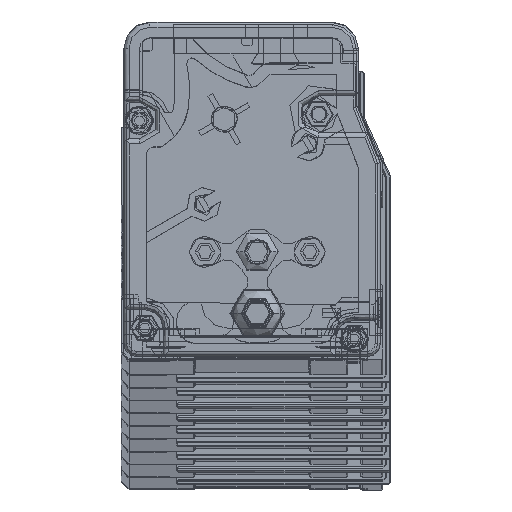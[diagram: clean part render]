
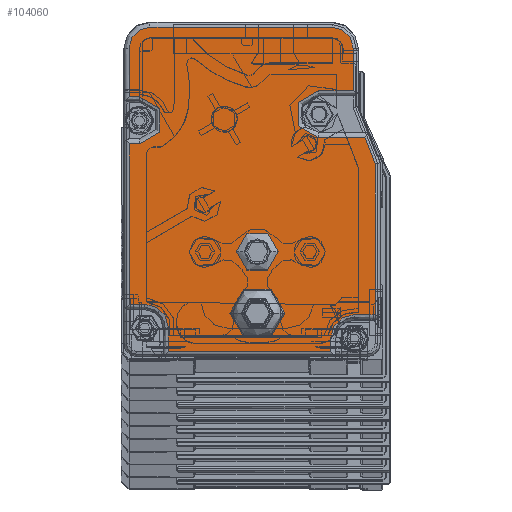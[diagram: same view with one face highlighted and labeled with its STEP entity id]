
A CAD part, top view. The second image highlights one B-rep face of the part: STEP entity #104060.
In plain terms, the highlighted planar face has unit normal (0, 0, 1).
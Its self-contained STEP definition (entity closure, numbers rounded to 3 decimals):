
#101950=CARTESIAN_POINT('',(-20.265,1.758,
3972.39));
#101960=DIRECTION('',(0.,0.,-1.));
#101970=DIRECTION('',(-1.,0.,0.));
#101980=AXIS2_PLACEMENT_3D('',#101950,#101960,#101970);
#101990=PLANE('',#101980);
#102000=CARTESIAN_POINT('',(-44.056,10.421,
3972.39));
#102010=DIRECTION('',(0.,0.,-1.));
#102020=DIRECTION('',(-1.,0.,0.));
#102030=AXIS2_PLACEMENT_3D('',#102000,#102010,#102020);
#102040=CIRCLE('',#102030,5.);
#102050=CARTESIAN_POINT('',(-49.056,10.421,
3972.39));
#102060=VERTEX_POINT('',#102050);
#102070=CARTESIAN_POINT('',(-39.056,10.421,
3972.39));
#102080=VERTEX_POINT('',#102070);
#102090=EDGE_CURVE('',#102060,#102080,#102040,.T.);
#102100=ORIENTED_EDGE('',*,*,#102090,.T.);
#102110=EDGE_CURVE('',#102080,#102060,#102040,.T.);
#102120=ORIENTED_EDGE('',*,*,#102110,.T.);
#102130=EDGE_LOOP('',(#102120,#102100));
#102140=FACE_BOUND('',#102130,.T.);
#102150=CARTESIAN_POINT('',(-44.059,22.124,
3972.39));
#102160=DIRECTION('',(0.,0.,1.));
#102170=DIRECTION('',(-1.,0.,0.));
#102180=AXIS2_PLACEMENT_3D('',#102150,#102160,#102170);
#102190=CIRCLE('',#102180,4.);
#102200=CARTESIAN_POINT('',(-40.059,22.124,
3972.39));
#102210=VERTEX_POINT('',#102200);
#102220=CARTESIAN_POINT('',(-48.059,22.124,
3972.39));
#102230=VERTEX_POINT('',#102220);
#102240=EDGE_CURVE('',#102210,#102230,#102190,.T.);
#102250=ORIENTED_EDGE('',*,*,#102240,.F.);
#102260=EDGE_CURVE('',#102230,#102210,#102190,.T.);
#102270=ORIENTED_EDGE('',*,*,#102260,.F.);
#102280=EDGE_LOOP('',(#102270,#102250));
#102290=FACE_BOUND('',#102280,.T.);
#102300=CARTESIAN_POINT('',(-61.059,2.124,
3972.39));
#102310=DIRECTION('',(0.,-1.,0.));
#102320=VECTOR('',#102310,1.);
#102330=LINE('',#102300,#102320);
#102340=CARTESIAN_POINT('',(-61.059,7.624,
3972.39));
#102350=VERTEX_POINT('',#102340);
#102360=CARTESIAN_POINT('',(-61.059,3.124,
3972.39));
#102370=VERTEX_POINT('',#102360);
#102380=EDGE_CURVE('',#102350,#102370,#102330,.T.);
#102390=ORIENTED_EDGE('',*,*,#102380,.T.);
#102400=CARTESIAN_POINT('',(-65.559,7.624,
3972.39));
#102410=DIRECTION('',(0.,0.,-1.));
#102420=DIRECTION('',(-1.,0.,0.));
#102430=AXIS2_PLACEMENT_3D('',#102400,#102410,#102420);
#102440=CIRCLE('',#102430,4.5);
#102450=CARTESIAN_POINT('',(-65.559,12.124,
3972.39));
#102460=VERTEX_POINT('',#102450);
#102470=EDGE_CURVE('',#102460,#102350,#102440,.T.);
#102480=ORIENTED_EDGE('',*,*,#102470,.T.);
#102490=CARTESIAN_POINT('',(-20.559,12.124,
3972.39));
#102500=DIRECTION('',(1.,0.,0.));
#102510=VECTOR('',#102500,1.);
#102520=LINE('',#102490,#102510);
#102530=CARTESIAN_POINT('',(-68.559,12.124,
3972.39));
#102540=VERTEX_POINT('',#102530);
#102550=EDGE_CURVE('',#102540,#102460,#102520,.T.);
#102560=ORIENTED_EDGE('',*,*,#102550,.T.);
#102570=CARTESIAN_POINT('',(-68.559,2.124,
3972.39));
#102580=DIRECTION('',(0.,-1.,0.));
#102590=VECTOR('',#102580,1.);
#102600=LINE('',#102570,#102590);
#102610=CARTESIAN_POINT('',(-68.559,42.727,
3972.39));
#102620=VERTEX_POINT('',#102610);
#102630=EDGE_CURVE('',#102620,#102540,#102600,.T.);
#102640=ORIENTED_EDGE('',*,*,#102630,.T.);
#102650=CARTESIAN_POINT('',(-20.559,42.727,
3972.39));
#102660=DIRECTION('',(-1.,0.,0.));
#102670=VECTOR('',#102660,1.);
#102680=LINE('',#102650,#102670);
#102690=CARTESIAN_POINT('',(-66.559,42.727,
3972.39));
#102700=VERTEX_POINT('',#102690);
#102710=EDGE_CURVE('',#102700,#102620,#102680,.T.);
#102720=ORIENTED_EDGE('',*,*,#102710,.T.);
#102730=CARTESIAN_POINT('',(-66.559,47.227,
3972.39));
#102740=DIRECTION('',(0.,0.,-1.));
#102750=DIRECTION('',(-1.,0.,0.));
#102760=AXIS2_PLACEMENT_3D('',#102730,#102740,#102750);
#102770=CIRCLE('',#102760,4.5);
#102780=CARTESIAN_POINT('',(-66.559,51.727,
3972.39));
#102790=VERTEX_POINT('',#102780);
#102800=EDGE_CURVE('',#102790,#102700,#102770,.T.);
#102810=ORIENTED_EDGE('',*,*,#102800,.T.);
#102820=CARTESIAN_POINT('',(-20.559,51.727,
3972.39));
#102830=DIRECTION('',(1.,0.,0.));
#102840=VECTOR('',#102830,1.);
#102850=LINE('',#102820,#102840);
#102860=CARTESIAN_POINT('',(-68.559,51.727,
3972.39));
#102870=VERTEX_POINT('',#102860);
#102880=EDGE_CURVE('',#102870,#102790,#102850,.T.);
#102890=ORIENTED_EDGE('',*,*,#102880,.T.);
#102900=CARTESIAN_POINT('',(-68.559,2.124,
3972.39));
#102910=DIRECTION('',(0.,-1.,0.));
#102920=VECTOR('',#102910,1.);
#102930=LINE('',#102900,#102920);
#102940=CARTESIAN_POINT('',(-68.559,61.024,
3972.39));
#102950=VERTEX_POINT('',#102940);
#102960=EDGE_CURVE('',#102950,#102870,#102930,.T.);
#102970=ORIENTED_EDGE('',*,*,#102960,.T.);
#102980=CARTESIAN_POINT('',(-64.559,61.024,
3972.39));
#102990=DIRECTION('',(0.,0.,1.));
#103000=DIRECTION('',(1.,0.,0.));
#103010=AXIS2_PLACEMENT_3D('',#102980,#102990,#103000);
#103020=CIRCLE('',#103010,4.);
#103030=CARTESIAN_POINT('',(-64.559,65.024,
3972.39));
#103040=VERTEX_POINT('',#103030);
#103050=EDGE_CURVE('',#103040,#102950,#103020,.T.);
#103060=ORIENTED_EDGE('',*,*,#103050,.T.);
#103070=CARTESIAN_POINT('',(-20.559,65.024,
3972.39));
#103080=DIRECTION('',(-1.,0.,0.));
#103090=VECTOR('',#103080,1.);
#103100=LINE('',#103070,#103090);
#103110=CARTESIAN_POINT('',(-29.759,65.024,
3972.39));
#103120=VERTEX_POINT('',#103110);
#103130=EDGE_CURVE('',#103120,#103040,#103100,.T.);
#103140=ORIENTED_EDGE('',*,*,#103130,.T.);
#103150=CARTESIAN_POINT('',(-29.759,61.024,
3972.39));
#103160=DIRECTION('',(0.,0.,1.));
#103170=DIRECTION('',(1.,0.,0.));
#103180=AXIS2_PLACEMENT_3D('',#103150,#103160,#103170);
#103190=CIRCLE('',#103180,4.);
#103200=CARTESIAN_POINT('',(-25.759,61.024,
3972.39));
#103210=VERTEX_POINT('',#103200);
#103220=EDGE_CURVE('',#103210,#103120,#103190,.T.);
#103230=ORIENTED_EDGE('',*,*,#103220,.T.);
#103240=CARTESIAN_POINT('',(-25.759,2.124,
3972.39));
#103250=DIRECTION('',(0.,1.,0.));
#103260=VECTOR('',#103250,1.);
#103270=LINE('',#103240,#103260);
#103280=CARTESIAN_POINT('',(-25.759,52.924,
3972.39));
#103290=VERTEX_POINT('',#103280);
#103300=EDGE_CURVE('',#103290,#103210,#103270,.T.);
#103310=ORIENTED_EDGE('',*,*,#103300,.T.);
#103320=CARTESIAN_POINT('',(-20.559,52.924,
3972.39));
#103330=DIRECTION('',(-1.,0.,0.));
#103340=VECTOR('',#103330,1.);
#103350=LINE('',#103320,#103340);
#103360=CARTESIAN_POINT('',(-32.309,52.924,
3972.39));
#103370=VERTEX_POINT('',#103360);
#103380=EDGE_CURVE('',#103290,#103370,#103350,.T.);
#103390=ORIENTED_EDGE('',*,*,#103380,.F.);
#103400=CARTESIAN_POINT('',(-32.309,48.424,
3972.39));
#103410=DIRECTION('',(0.,0.,-1.));
#103420=DIRECTION('',(-1.,0.,0.));
#103430=AXIS2_PLACEMENT_3D('',#103400,#103410,#103420);
#103440=CIRCLE('',#103430,4.5);
#103450=CARTESIAN_POINT('',(-32.309,43.924,
3972.39));
#103460=VERTEX_POINT('',#103450);
#103470=EDGE_CURVE('',#103460,#103370,#103440,.T.);
#103480=ORIENTED_EDGE('',*,*,#103470,.T.);
#103490=CARTESIAN_POINT('',(-20.559,43.924,
3972.39));
#103500=DIRECTION('',(-1.,0.,0.));
#103510=VECTOR('',#103500,1.);
#103520=LINE('',#103490,#103510);
#103530=CARTESIAN_POINT('',(-23.499,43.924,
3972.39));
#103540=VERTEX_POINT('',#103530);
#103550=EDGE_CURVE('',#103540,#103460,#103520,.T.);
#103560=ORIENTED_EDGE('',*,*,#103550,.T.);
#103570=CARTESIAN_POINT('',(-7.243,2.124,
3972.39));
#103580=DIRECTION('',(0.362,-0.932,0.));
#103590=VECTOR('',#103580,1.);
#103600=LINE('',#103570,#103590);
#103610=CARTESIAN_POINT('',(-21.559,38.937,
3972.39));
#103620=VERTEX_POINT('',#103610);
#103630=EDGE_CURVE('',#103540,#103620,#103600,.T.);
#103640=ORIENTED_EDGE('',*,*,#103630,.F.);
#103650=CARTESIAN_POINT('',(-21.559,2.124,
3972.39));
#103660=DIRECTION('',(0.,-1.,0.));
#103670=VECTOR('',#103660,1.);
#103680=LINE('',#103650,#103670);
#103690=CARTESIAN_POINT('',(-21.559,10.124,
3972.39));
#103700=VERTEX_POINT('',#103690);
#103710=EDGE_CURVE('',#103620,#103700,#103680,.T.);
#103720=ORIENTED_EDGE('',*,*,#103710,.F.);
#103730=CARTESIAN_POINT('',(-20.559,10.124,
3972.39));
#103740=DIRECTION('',(1.,0.,0.));
#103750=VECTOR('',#103740,1.);
#103760=LINE('',#103730,#103750);
#103770=CARTESIAN_POINT('',(-25.559,10.124,
3972.39));
#103780=VERTEX_POINT('',#103770);
#103790=EDGE_CURVE('',#103780,#103700,#103760,.T.);
#103800=ORIENTED_EDGE('',*,*,#103790,.T.);
#103810=CARTESIAN_POINT('',(-25.559,5.624,
3972.39));
#103820=DIRECTION('',(0.,0.,-1.));
#103830=DIRECTION('',(-1.,0.,0.));
#103840=AXIS2_PLACEMENT_3D('',#103810,#103820,#103830);
#103850=CIRCLE('',#103840,4.5);
#103860=CARTESIAN_POINT('',(-30.059,5.624,
3972.39));
#103870=VERTEX_POINT('',#103860);
#103880=EDGE_CURVE('',#103870,#103780,#103850,.T.);
#103890=ORIENTED_EDGE('',*,*,#103880,.T.);
#103900=CARTESIAN_POINT('',(-30.059,2.124,
3972.39));
#103910=DIRECTION('',(0.,1.,0.));
#103920=VECTOR('',#103910,1.);
#103930=LINE('',#103900,#103920);
#103940=CARTESIAN_POINT('',(-30.059,3.124,
3972.39));
#103950=VERTEX_POINT('',#103940);
#103960=EDGE_CURVE('',#103950,#103870,#103930,.T.);
#103970=ORIENTED_EDGE('',*,*,#103960,.T.);
#103980=CARTESIAN_POINT('',(-20.559,3.124,
3972.39));
#103990=DIRECTION('',(-1.,0.,0.));
#104000=VECTOR('',#103990,1.);
#104010=LINE('',#103980,#104000);
#104020=EDGE_CURVE('',#103950,#102370,#104010,.T.);
#104030=ORIENTED_EDGE('',*,*,#104020,.F.);
#104040=EDGE_LOOP('',(#104030,#103970,#103890,#103800,#103720,#103640,
#103560,#103480,#103390,#103310,#103230,#103140,#103060,#102970,#102890,
#102810,#102720,#102640,#102560,#102480,#102390));
#104050=FACE_OUTER_BOUND('',#104040,.T.);
#104060=ADVANCED_FACE('',(#102140,#102290,#104050),#101990,.F.);
